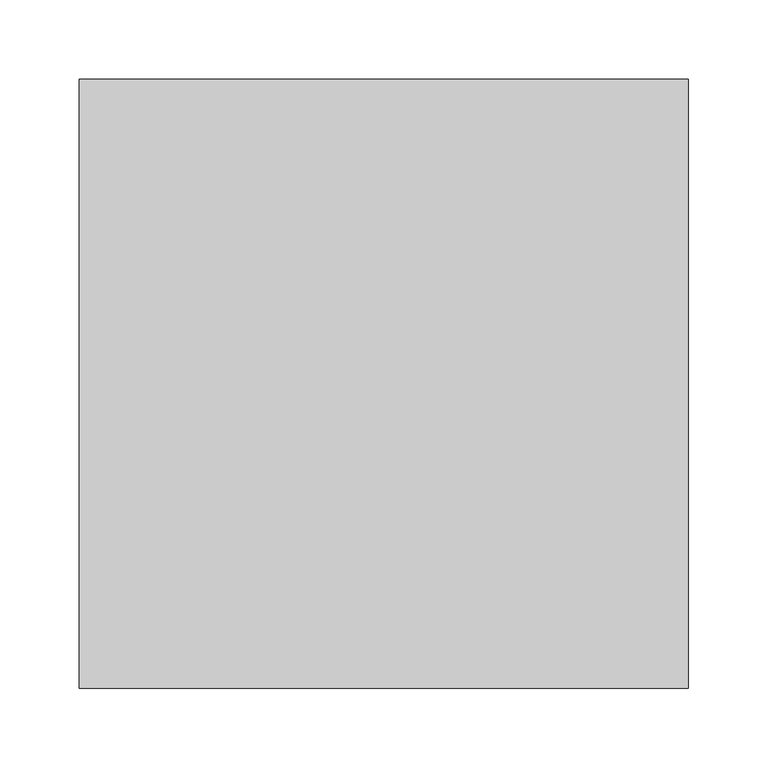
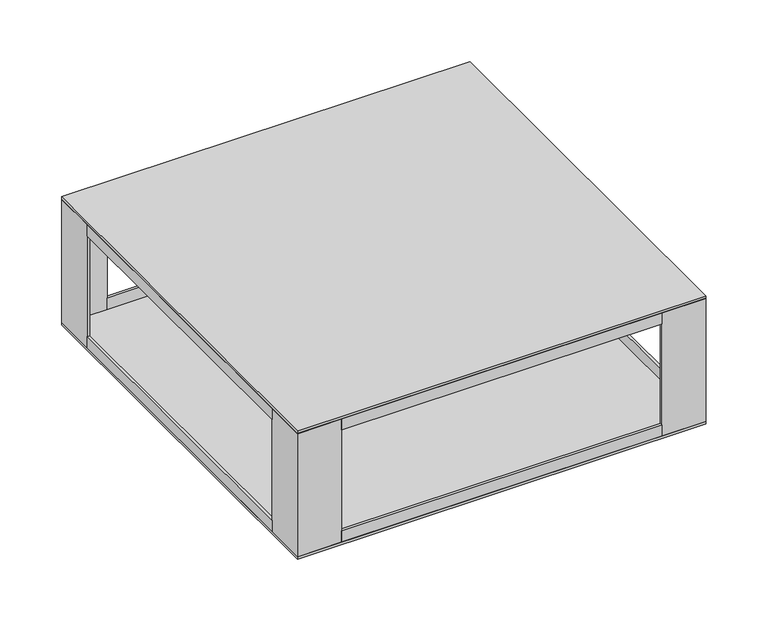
"""IFC4 building model written with IfcOpenShell, lengths in millimetres: cable carrier fitting geometry, CDT_CR_Box Derivation_Basorcanal : Basorcanal CDT."""

import ifcopenshell
import ifcopenshell.guid

model = None  # the IFC model being written
_history = None  # IfcOwnerHistory: only IFC2X3 demands one
_inside = {}  # id of a spatial element -> (the spatial element, [elements in it])
_under = {}  # id of a project, library or spatial element -> (it, [spatial elements below it])
_declared = {}  # id of a project -> (the project, [libraries it declares])
_typed = {}  # id of a type object -> (the type object, [elements of that type])
_made_of = {}  # id of a material, layer set ... -> (it, [elements and type objects made of it])


def new_model(schema):
    """Start an empty IFC model of exactly this schema.

    Asked for "IFC4X3", IfcOpenShell would pick the latest addendum, in which some entities
    have other attributes; the version numbers below select the first issue.
    IFC2X3 requires an IfcOwnerHistory on every rooted entity: one is made here for all.
    """
    global model, _history
    if schema == "IFC4X3":
        model = ifcopenshell.file(schema_version=(4, 3, 0, 0))
    else:
        model = ifcopenshell.file(schema=schema)
    _inside.clear()
    _under.clear()
    _declared.clear()
    _typed.clear()
    _made_of.clear()
    _history = None
    if model.schema == "IFC2X3":
        org = make("IfcOrganization", Name="unknown")
        user = make(
            "IfcPersonAndOrganization",
            ThePerson=make("IfcPerson", FamilyName="unknown"),
            TheOrganization=org,
        )
        app = make(
            "IfcApplication",
            ApplicationDeveloper=org,
            Version="unknown",
            ApplicationFullName="unknown",
            ApplicationIdentifier="unknown",
        )
        _history = make(
            "IfcOwnerHistory",
            OwningUser=user,
            OwningApplication=app,
            ChangeAction="ADDED",
            CreationDate=0,
        )
    return model


def make(cls, **values):
    """One entity of the class cls with the attributes given. An attribute that is None is left unset."""
    return model.create_entity(
        cls, **{name: value for name, value in values.items() if value is not None}
    )


def rooted(cls, **values):
    """An entity with a GlobalId (a new one), such as an element, a storey or a relation."""
    return make(cls, GlobalId=ifcopenshell.guid.new(), OwnerHistory=_history, **values)


def si_unit(unit_type, name, prefix=None):
    """IfcSIUnit, for example si_unit("LENGTHUNIT", "METRE", prefix="MILLI")."""
    return make("IfcSIUnit", UnitType=unit_type, Prefix=prefix, Name=name)


def assignment(units):
    """IfcUnitAssignment: the units of a project."""
    return None if units is None else make("IfcUnitAssignment", Units=units)


def point(xyz):
    """IfcCartesianPoint."""
    return None if xyz is None else make("IfcCartesianPoint", Coordinates=xyz)


def direction(xyz):
    """IfcDirection."""
    return None if xyz is None else make("IfcDirection", DirectionRatios=xyz)


def frame(location, z_axis=None, x_axis=None):
    """IfcAxis2Placement3D, a coordinate frame: its origin and axes. An axis left out is left unset."""
    return make(
        "IfcAxis2Placement3D",
        Location=point(location),
        Axis=direction(z_axis),
        RefDirection=direction(x_axis),
    )


def origin():
    """The frame at (0, 0, 0) with its axes left unset."""
    return frame((0.0, 0.0, 0.0))


def place(relative_to, where):
    """IfcLocalPlacement: puts the frame where relative to a parent placement (None: the world)."""
    return make(
        "IfcLocalPlacement", PlacementRelTo=relative_to, RelativePlacement=where
    )


def context(
    kind, dimensions, precision=None, world=None, true_north=None, identifier=None
):
    """IfcGeometricRepresentationContext, for example the 3D "Model" context."""
    return make(
        "IfcGeometricRepresentationContext",
        ContextIdentifier=identifier,
        ContextType=kind,
        CoordinateSpaceDimension=dimensions,
        Precision=precision,
        WorldCoordinateSystem=world,
        TrueNorth=true_north,
    )


def project(units=None, contexts=None):
    """IfcProject with its units and contexts."""
    return rooted(
        "IfcProject",
        Name="project",
        RepresentationContexts=contexts,
        UnitsInContext=assignment(units),
    )


def spatial(cls, under=None, at=None, **own):
    """A site, building, storey or space (cls), placed at a placement, below another one or the project."""
    s = rooted(cls, ObjectPlacement=at, **own)
    if under is not None:
        _under.setdefault(under.id(), (under, []))[1].append(s)
    return s


def polyline(points):
    """IfcPolyline through the points."""
    return make("IfcPolyline", Points=[point(p) for p in points])


def outline(outer, holes=None, kind="AREA"):
    """IfcArbitraryClosedProfileDef: a profile drawn as a closed curve; with holes, ...WithVoids."""
    if holes is None:
        return make("IfcArbitraryClosedProfileDef", ProfileType=kind, OuterCurve=outer)
    return make(
        "IfcArbitraryProfileDefWithVoids",
        ProfileType=kind,
        OuterCurve=outer,
        InnerCurves=holes,
    )


def extrude(swept, where, along, depth):
    """IfcExtrudedAreaSolid: the profile swept, set in the frame where, extruded along a direction by depth."""
    return make(
        "IfcExtrudedAreaSolid",
        SweptArea=swept,
        Position=where,
        ExtrudedDirection=direction(along),
        Depth=depth,
    )


def shape(context_of_items, identifier, shape_type, items):
    """IfcShapeRepresentation: the items that make up one representation, for example the "Body"."""
    return make(
        "IfcShapeRepresentation",
        ContextOfItems=context_of_items,
        RepresentationIdentifier=identifier,
        RepresentationType=shape_type,
        Items=items,
    )


def source(mapping_origin, context_of_items, identifier, shape_type, items):
    """IfcRepresentationMap: a shape defined once, which mapped items show again and again."""
    return make(
        "IfcRepresentationMap",
        MappingOrigin=mapping_origin,
        MappedRepresentation=shape(context_of_items, identifier, shape_type, items),
    )


def transform(
    local_origin,
    x_axis=None,
    y_axis=None,
    z_axis=None,
    scale=None,
    scale2=None,
    scale3=None,
    uniform=True,
):
    """IfcCartesianTransformationOperator3D, or its non-uniform kind. x_axis, y_axis, z_axis: its Axis1, 2, 3."""
    if uniform:
        return make(
            "IfcCartesianTransformationOperator3D",
            Axis1=direction(x_axis),
            Axis2=direction(y_axis),
            LocalOrigin=point(local_origin),
            Scale=scale,
            Axis3=direction(z_axis),
        )
    return make(
        "IfcCartesianTransformationOperator3DnonUniform",
        Axis1=direction(x_axis),
        Axis2=direction(y_axis),
        LocalOrigin=point(local_origin),
        Scale=scale,
        Axis3=direction(z_axis),
        Scale2=scale2,
        Scale3=scale3,
    )


def mapped(mapping_source, mapping_target):
    """IfcMappedItem: shows the shape of a source again, moved by a transform."""
    return make(
        "IfcMappedItem", MappingSource=mapping_source, MappingTarget=mapping_target
    )


def made_of(thing, what):
    """Note that an element or type object is made of a material, layer set ...; save() writes the relation."""
    if what is not None:
        _made_of.setdefault(what.id(), (what, []))[1].append(thing)
    return thing


def element(
    cls,
    number,
    at=None,
    inside=None,
    cuts=None,
    type_object=None,
    material=None,
    context=None,
    identifier="Body",
    shape_type=None,
    held_by="IfcProductDefinitionShape",
    body=None,
    shapes=None,
    **own,
):
    """One element of the class cls, such as IfcWall. Its Tag is "e" and its number.

    at: its placement. inside: the storey or other place that contains it. cuts: it is an
    opening in that element (IfcRelVoidsElement). A single representation is given by context,
    identifier, shape_type and body (its items); several are given by shapes. held_by: the class
    of the entity that holds the representations. save() writes the other relations.
    """
    e = rooted(cls, Tag="e%d" % number, ObjectPlacement=at, **own)
    if body is not None:
        shapes = [shape(context, identifier, shape_type, body)]
    if shapes is not None:
        e.Representation = make(held_by, Representations=shapes)
    if inside is not None:
        _inside.setdefault(inside.id(), (inside, []))[1].append(e)
    if cuts is not None:
        rooted(
            "IfcRelVoidsElement", RelatingBuildingElement=cuts, RelatedOpeningElement=e
        )
    if type_object is not None:
        _typed.setdefault(type_object.id(), (type_object, []))[1].append(e)
    return made_of(e, material)


def aggregate(whole, parts):
    """IfcRelAggregates: a whole, such as a stair, and the parts it consists of."""
    return rooted("IfcRelAggregates", RelatingObject=whole, RelatedObjects=parts)


def save(model, path):
    """Write the relations noted so far, then the file.

    IfcRelAggregates (storeys below a building ...), IfcRelContainedInSpatialStructure (elements
    in a storey), IfcRelDefinesByType, IfcRelAssociatesMaterial and IfcRelDeclares: one each for
    every whole, place, type object, material and project.
    """
    for whole, parts in _under.values():
        aggregate(whole, parts)
    for where, things in _inside.values():
        rooted(
            "IfcRelContainedInSpatialStructure",
            RelatedElements=things,
            RelatingStructure=where,
        )
    for kind, things in _typed.values():
        rooted("IfcRelDefinesByType", RelatedObjects=things, RelatingType=kind)
    for what, things in _made_of.values():
        rooted("IfcRelAssociatesMaterial", RelatedObjects=things, RelatingMaterial=what)
    for by, libraries in _declared.values():
        rooted("IfcRelDeclares", RelatingContext=by, RelatedDefinitions=libraries)
    model.write(path)


def cable_carrier_fitting_19ecf4e0(model_context):
    return source(origin(), model_context, "Body", "SweptSolid", [
        extrude(outline(polyline([(150.0, -188.96), (150.0, -191.5), (-150.0, -191.5), (-150.0, -188.96), (150.0, -188.96)])), frame((0.0, 0.0, -60.96), z_axis=(0.0, 0.0, 1.0), x_axis=(1.0, 0.0, 0.0)), (0.0, 0.0, 1.0), 10.96),
        extrude(outline(polyline([(-188.96, 150.0), (-188.96, -150.0), (-191.5, -150.0), (-191.5, 150.0), (-188.96, 150.0)])), frame((0.0, 0.0, -60.96), z_axis=(0.0, 0.0, 1.0), x_axis=(1.0, 0.0, 0.0)), (0.0, 0.0, 1.0), 10.96),
        extrude(outline(polyline([(150.0, 191.5), (150.0, 188.96), (-150.0, 188.96), (-150.0, 191.5), (150.0, 191.5)])), frame((0.0, 0.0, -60.96), z_axis=(0.0, 0.0, 1.0), x_axis=(1.0, 0.0, 0.0)), (0.0, 0.0, 1.0), 10.96),
        extrude(outline(polyline([(191.5, 150.0), (191.5, -150.0), (188.96, -150.0), (188.96, 150.0), (191.5, 150.0)])), frame((0.0, 0.0, -60.96), z_axis=(0.0, 0.0, 1.0), x_axis=(1.0, 0.0, 0.0)), (0.0, 0.0, 1.0), 10.96),
        extrude(outline(polyline([(150.0, 191.5), (150.0, 188.96), (-150.0, 188.96), (-150.0, 191.5), (150.0, 191.5)])), frame((0.0, 0.0, 50.0), z_axis=(0.0, 0.0, 1.0), x_axis=(1.0, 0.0, 0.0)), (0.0, 0.0, 1.0), 10.96),
        extrude(outline(polyline([(-188.96, 150.0), (-188.96, -150.0), (-191.5, -150.0), (-191.5, 150.0), (-188.96, 150.0)])), frame((0.0, 0.0, 50.0), z_axis=(0.0, 0.0, 1.0), x_axis=(1.0, 0.0, 0.0)), (0.0, 0.0, 1.0), 10.96),
        extrude(outline(polyline([(188.96, 150.0), (191.5, 150.0), (191.5, -150.0), (188.96, -150.0), (188.96, 150.0)])), frame((0.0, 0.0, 50.0), z_axis=(0.0, 0.0, 1.0), x_axis=(1.0, 0.0, 0.0)), (0.0, 0.0, 1.0), 10.96),
        extrude(outline(polyline([(150.0, -188.96), (150.0, -191.5), (-150.0, -191.5), (-150.0, -188.96), (150.0, -188.96)])), frame((0.0, 0.0, 50.0), z_axis=(0.0, 0.0, 1.0), x_axis=(1.0, 0.0, 0.0)), (0.0, 0.0, 1.0), 10.96),
        extrude(outline(polyline([(-150.0, 191.5), (-150.0, 188.96), (-188.96, 188.96), (-188.96, 150.0), (-191.5, 150.0), (-191.5, 191.5), (-150.0, 191.5)])), frame((0.0, 0.0, -60.96), z_axis=(0.0, 0.0, 1.0), x_axis=(1.0, 0.0, 0.0)), (0.0, 0.0, 1.0), 121.92),
        extrude(outline(polyline([(150.0, 191.5), (191.5, 191.5), (191.5, 150.0), (188.96, 150.0), (188.96, 188.96), (150.0, 188.96), (150.0, 191.5)])), frame((0.0, 0.0, -60.96), z_axis=(0.0, 0.0, 1.0), x_axis=(1.0, 0.0, 0.0)), (0.0, 0.0, 1.0), 121.92),
        extrude(outline(polyline([(-150.0, -191.5), (-191.5, -191.5), (-191.5, -150.0), (-188.96, -150.0), (-188.96, -188.96), (-150.0, -188.96), (-150.0, -191.5)])), frame((0.0, 0.0, -60.96), z_axis=(0.0, 0.0, 1.0), x_axis=(1.0, 0.0, 0.0)), (0.0, 0.0, 1.0), 121.92),
        extrude(outline(polyline([(150.0, -191.5), (150.0, -188.96), (188.96, -188.96), (188.96, -150.0), (191.5, -150.0), (191.5, -191.5), (150.0, -191.5)])), frame((0.0, 0.0, -60.96), z_axis=(0.0, 0.0, 1.0), x_axis=(1.0, 0.0, 0.0)), (0.0, 0.0, 1.0), 121.92),
        extrude(outline(polyline([(191.5, 191.5), (191.5, -191.5), (-191.5, -191.5), (-191.5, 191.5), (191.5, 191.5)])), frame((0.0, 0.0, 60.96), z_axis=(0.0, 0.0, 1.0), x_axis=(1.0, 0.0, 0.0)), (0.0, 0.0, 1.0), 2.54),
        extrude(outline(polyline([(191.5, -191.5), (-191.5, -191.5), (-191.5, 191.5), (191.5, 191.5), (191.5, -191.5)])), frame((0.0, 0.0, -63.5), z_axis=(0.0, 0.0, 1.0), x_axis=(1.0, 0.0, 0.0)), (0.0, 0.0, 1.0), 2.54),
    ])


if __name__ == "__main__":
    model = new_model("IFC4")
    model_context = context("Model", 3, world=origin())
    ifc_project = project(units=[si_unit("LENGTHUNIT", "METRE", prefix="MILLI")], contexts=[model_context])
    site = spatial("IfcSite", under=ifc_project)
    building = spatial("IfcBuilding", under=site)
    placement = place(None, origin())
    cable_carrier_fitting_shape = cable_carrier_fitting_19ecf4e0(model_context)
    element("IfcCableCarrierFitting", 1, ObjectType="CDT_CR_Box Derivation_Basorcanal : Basorcanal CDT", at=placement, inside=building, context=model_context, shape_type="MappedRepresentation", body=[
        mapped(cable_carrier_fitting_shape, transform((0.0, 0.0, 0.0), x_axis=(1.0, 0.0, 0.0), y_axis=(0.0, 1.0, 0.0), z_axis=(0.0, 0.0, 1.0))),
    ])
    save(model, "model.ifc")
